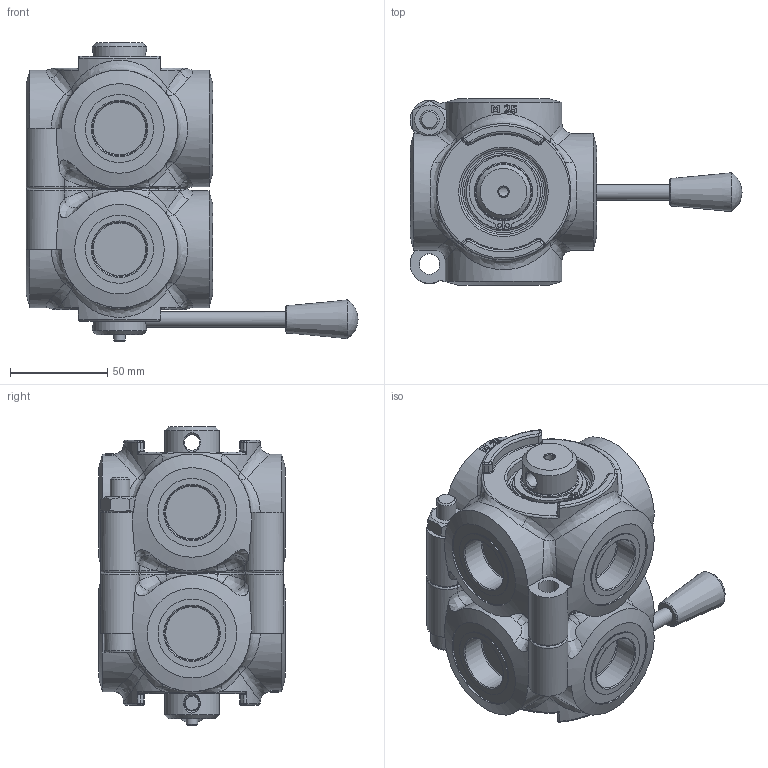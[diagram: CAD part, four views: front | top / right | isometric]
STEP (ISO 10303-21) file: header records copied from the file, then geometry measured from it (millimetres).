
FILE_DESCRIPTION((''),'2;1');
FILE_NAME('G:\HV_HYDRAULIC\AZIENDA_HV_HYDRAULIC\ARCHIVIO_DISEGNI\5_PRODOTTI_FINITI\2_DEVIATORI_INVERTITORI\7005_D8\7005.0103_D8_1_G_ca_(HV)\7005.0103.stp','2024-08-30T08:38:27',('christian.scardovi'),(''),'Autodesk Inventor 2013','Autodesk Inventor 2013','');
FILE_SCHEMA(('AUTOMOTIVE_DESIGN { 1 0 10303 214 1 1 1 1 }'));
Length unit declared in the file: millimetre
Products named in the file (1): 7005.0103
Bounding box: 170.5 x 96 x 153.25 mm (x, y, z)
Volume: 837299.9 mm3; surface area: 91809 mm2
Topology: 1 solids, 1 shells, 562 faces, 1348 edges, 819 vertices
Faces by surface type: plane 147, cylinder 140, bspline 125, torus 95, cone 34, sphere 21
Full cylindrical faces by diameter (mm): 2 x4, 4.917 x1, 6 x1, 8 x3, 10 x1, 10.5 x1, 16 x1, 28 x10, 28.6 x2, 29.9 x2, 31 x8, 35 x8, 38 x2, 44 x2, 46 x8, 60 x2
Entity records: 32655 total; most frequent: CARTESIAN_POINT 20562, ORIENTED_EDGE 2334, DIRECTION 2188, EDGE_CURVE 1167, AXIS2_PLACEMENT_3D 959, VERTEX_POINT 782, EDGE_LOOP 743, FACE_OUTER_BOUND 562
